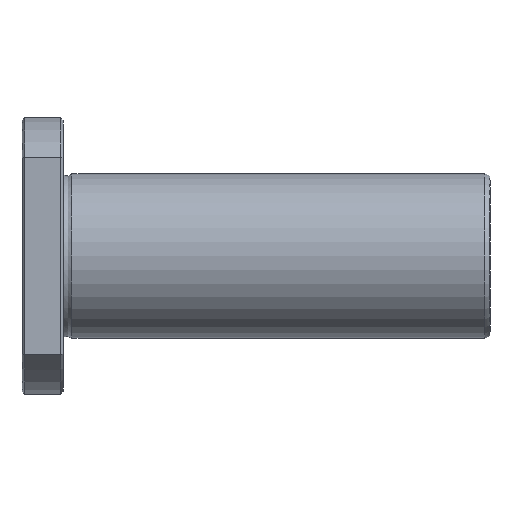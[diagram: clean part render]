
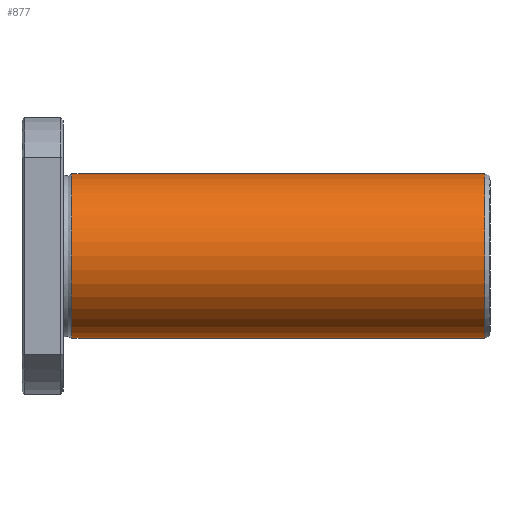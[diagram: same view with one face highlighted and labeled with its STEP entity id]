
A CAD part, front view. The second image highlights one B-rep face of the part: STEP entity #877.
In plain terms, the highlighted cylindrical face has radius 16 mm (diameter 32 mm), a full revolution.
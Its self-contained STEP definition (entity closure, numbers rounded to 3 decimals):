
#843=CARTESIAN_POINT('',(89.999,0.0,16.));
#844=VERTEX_POINT('',#843);
#845=CARTESIAN_POINT('',(89.999,0.0,0.0));
#846=DIRECTION('',(-1.0,0.0,0.0));
#847=DIRECTION('',(0.0,0.0,1.0));
#848=AXIS2_PLACEMENT_3D('',#845,#846,#847);
#849=CIRCLE('',#848,16.);
#850=EDGE_CURVE('',#844,#844,#849,.T.);
#858=CARTESIAN_POINT('',(49.859,0.0,0.0));
#859=DIRECTION('',(-1.0,0.0,0.0));
#860=DIRECTION('',(0.0,0.0,1.0));
#861=AXIS2_PLACEMENT_3D('',#858,#859,#860);
#862=CYLINDRICAL_SURFACE('',#861,16.);
#863=CARTESIAN_POINT('',(9.72,0.0,16.0));
#864=VERTEX_POINT('',#863);
#865=CARTESIAN_POINT('',(9.72,0.0,0.0));
#866=DIRECTION('',(-1.0,0.0,0.0));
#867=DIRECTION('',(0.0,0.0,1.0));
#868=AXIS2_PLACEMENT_3D('',#865,#866,#867);
#869=CIRCLE('',#868,16.0);
#870=EDGE_CURVE('',#864,#864,#869,.T.);
#871=ORIENTED_EDGE('',*,*,#870,.F.);
#872=EDGE_LOOP('',(#871));
#873=FACE_OUTER_BOUND('',#872,.T.);
#874=ORIENTED_EDGE('',*,*,#850,.T.);
#875=EDGE_LOOP('',(#874));
#876=FACE_BOUND('',#875,.T.);
#877=ADVANCED_FACE('',(#873,#876),#862,.T.);
